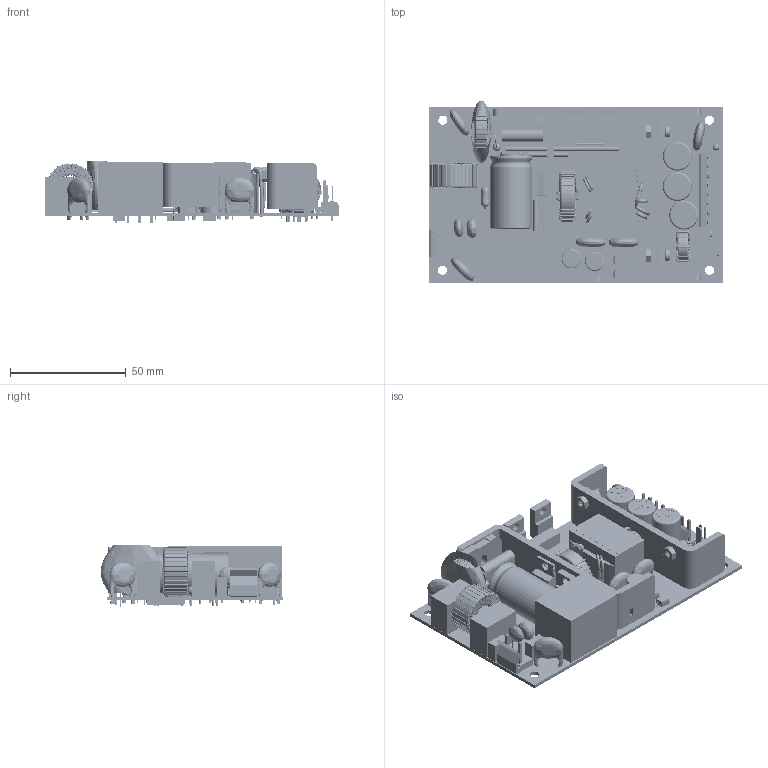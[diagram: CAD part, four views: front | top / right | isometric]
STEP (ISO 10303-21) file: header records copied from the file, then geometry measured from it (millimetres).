
FILE_DESCRIPTION (( 'STEP AP214' ), '1' );
FILE_NAME ('CFM150M SPEC-1021031.STEP', '2013-10-31T09:11:06', ( 'user' ), ( 'SYNNEX' ), 'SwSTEP 2.0', 'SolidWorks 2008', '' );
FILE_SCHEMA (( 'AUTOMOTIVE_DESIGN' ));
Length unit declared in the file: millimetre
Products named in the file (30): CFM351M L1D12x4.5; GreenLED; Axial0_4_3K3(980119); 橋式整流器電晶體_預設; Axial0_4_10Kx2; 2 PIN插座960620; VR1_預設; Z1(8.2X11.8)_預設; TO-220HS(980226); 變壓器_預設; 3 PIN插座(2PIN)971208; CFM201S LF2_000107; ､鎹INA_ｹwｳ]; CFM100M散熱片75x20x21.5 t=3(990412)_預設; 組合件2_預設; CFM351M CX(7_2X12)_預設; M3螺帽; CFM100M散熱片74.9x19x46.8 t=3(990412)_預設; 組合件1_預設; M3x6mm十字螺絲; TLP281_?? ?????????; 電晶體10mm; CFM150M PCB_預設; CFM150M SPEC-1021031; Electrolitic Capacitor Radial 10x20; 8PIN插座960620; 18.1mm電容-31.5mm; CFM351M CY3 980903; CFM351M CY3-D20x7; CFM351M CY3-D20x10
Assembly tree (45 placements, depth 3):
  CFM150M SPEC-1021031
    橋式整流器電晶體_預設
    TLP281_?? ?????????  x2
    電晶體10mm  x5
    組合件2_預設  x2
      CFM100M散熱片75x20x21.5 t=3(990412)_預設
      ､鎹INA_ｹwｳ]
    CFM150M PCB_預設
    Z1(8.2X11.8)_預設
    8PIN插座960620
    M3x6mm十字螺絲  x2
    CFM351M CY3 980903
    Electrolitic Capacitor Radial 10x20  x3
    CFM351M CX(7_2X12)_預設  x5
    GreenLED
    VR1_預設
    TO-220HS(980226)
    CFM351M CY3-D20x10
    18.1mm電容-31.5mm
    變壓器_預設
    Axial0_4_3K3(980119)
    3 PIN插座(2PIN)971208
    CFM201S LF2_000107
    Axial0_4_10Kx2
    2 PIN插座960620
    M3螺帽  x2
    組合件1_預設
      ､鎹INA_ｹwｳ]
      CFM100M散熱片74.9x19x46.8 t=3(990412)_預設
    CFM351M CY3-D20x7
    CFM351M L1D12x4.5
Bounding box: 127 x 79.02 x 27.07 mm (x, y, z)
Volume: 102997.3 mm3; surface area: 73942.2 mm2
Topology: 55 solids, 57 shells, 4398 faces, 11476 edges, 7254 vertices
Faces by surface type: cylinder 1689, plane 1389, torus 912, bspline 333, cone 74, sphere 1
Entity records: 143169 total; most frequent: CARTESIAN_POINT 43876, ORIENTED_EDGE 19892, DIRECTION 18947, EDGE_CURVE 9948, AXIS2_PLACEMENT_3D 7609, VERTEX_POINT 6323, CIRCLE 4008, EDGE_LOOP 3855
